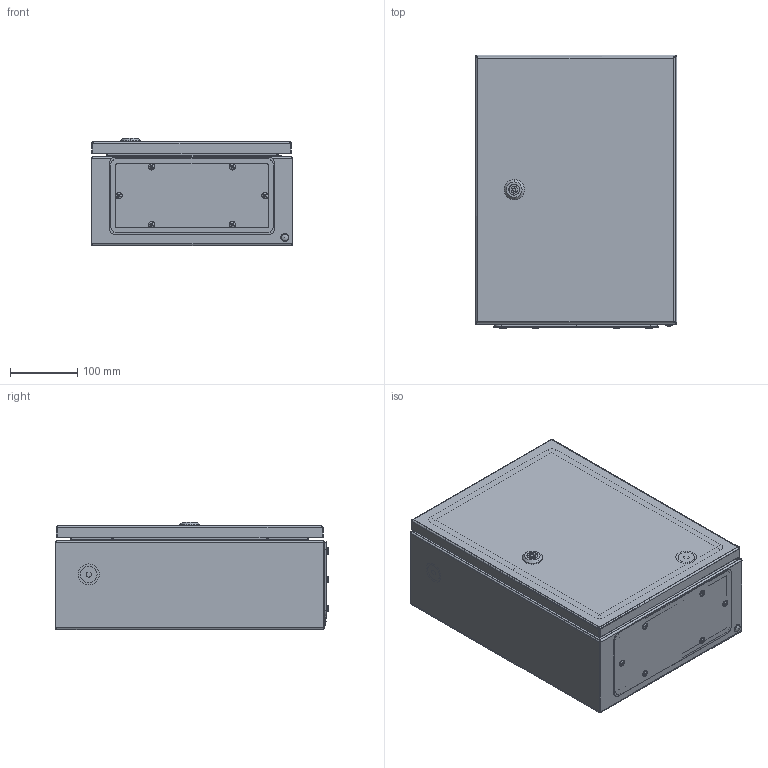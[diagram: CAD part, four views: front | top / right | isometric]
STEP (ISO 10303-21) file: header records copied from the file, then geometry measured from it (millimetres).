
FILE_DESCRIPTION (( 'STEP AP214' ), '1' );
FILE_NAME ('T-CCS 40.30.15.STEP', '2024-08-19T14:36:38', ( '' ), ( '' ), 'SwSTEP 2.0', 'SolidWorks 2019', '' );
FILE_SCHEMA (( 'AUTOMOTIVE_DESIGN' ));
Length unit declared in the file: millimetre
Products named in the file (1): T-CCS 40.30.15
Bounding box: 300 x 406.62 x 159.15 mm (x, y, z)
Volume: 1596995.6 mm3; surface area: 1575367.5 mm2
Topology: 71 solids, 71 shells, 3377 faces, 8560 edges, 5404 vertices
Faces by surface type: plane 1780, cylinder 1039, cone 276, bspline 140, torus 103, sphere 39
Entity records: 167166 total; most frequent: CARTESIAN_POINT 49625, ORIENTED_EDGE 17018, DIRECTION 16065, EDGE_CURVE 8509, AXIS2_PLACEMENT_3D 5459, VERTEX_POINT 5402, LINE 5147, VECTOR 5147
